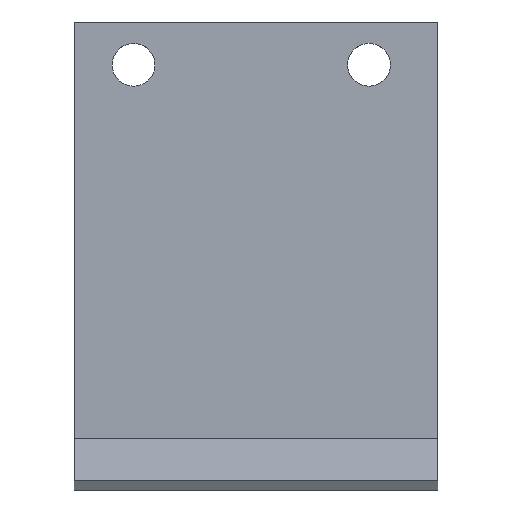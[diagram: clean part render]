
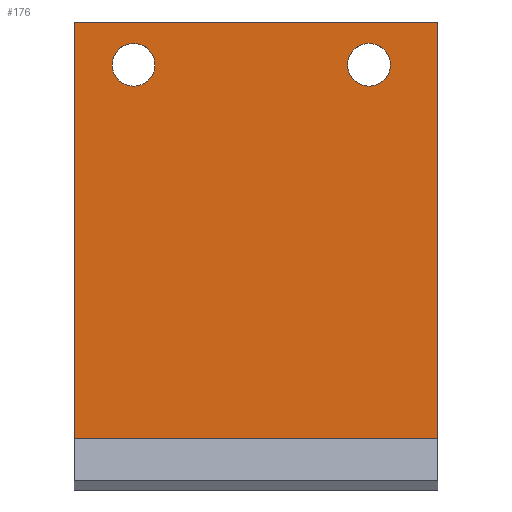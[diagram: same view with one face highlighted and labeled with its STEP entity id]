
A CAD part, top view. The second image highlights one B-rep face of the part: STEP entity #176.
In plain terms, the highlighted planar face has unit normal (0, 0, 1).
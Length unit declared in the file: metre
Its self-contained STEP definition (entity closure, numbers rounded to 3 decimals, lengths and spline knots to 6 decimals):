
#14=LINE('',#267,#32);
#15=LINE('',#270,#33);
#16=LINE('',#272,#34);
#17=LINE('',#274,#35);
#32=VECTOR('',#221,1.);
#33=VECTOR('',#222,1.);
#34=VECTOR('',#223,1.);
#35=VECTOR('',#224,1.);
#50=ORIENTED_EDGE('',*,*,#94,.T.);
#51=ORIENTED_EDGE('',*,*,#95,.T.);
#52=ORIENTED_EDGE('',*,*,#96,.F.);
#53=ORIENTED_EDGE('',*,*,#97,.T.);
#54=ORIENTED_EDGE('',*,*,#98,.T.);
#55=ORIENTED_EDGE('',*,*,#99,.T.);
#94=EDGE_CURVE('',#116,#116,#132,.F.);
#95=EDGE_CURVE('',#117,#117,#133,.F.);
#96=EDGE_CURVE('',#118,#119,#14,.T.);
#97=EDGE_CURVE('',#118,#120,#15,.T.);
#98=EDGE_CURVE('',#120,#121,#16,.T.);
#99=EDGE_CURVE('',#121,#119,#17,.T.);
#116=VERTEX_POINT('',#264);
#117=VERTEX_POINT('',#266);
#118=VERTEX_POINT('',#268);
#119=VERTEX_POINT('',#269);
#120=VERTEX_POINT('',#271);
#121=VERTEX_POINT('',#273);
#132=CIRCLE('',#200,0.002);
#133=CIRCLE('',#201,0.002);
#136=EDGE_LOOP('',(#50));
#137=EDGE_LOOP('',(#51));
#138=EDGE_LOOP('',(#52,#53,#54,#55));
#152=FACE_BOUND('',#136,.T.);
#153=FACE_BOUND('',#137,.T.);
#154=FACE_BOUND('',#138,.T.);
#168=PLANE('',#199);
#176=ADVANCED_FACE('',(#152,#153,#154),#168,.T.);
#199=AXIS2_PLACEMENT_3D('',#262,#215,#216);
#200=AXIS2_PLACEMENT_3D('',#263,#217,#218);
#201=AXIS2_PLACEMENT_3D('',#265,#219,#220);
#215=DIRECTION('',(0.,0.,1.));
#216=DIRECTION('',(1.,0.,0.));
#217=DIRECTION('',(0.,0.,1.));
#218=DIRECTION('',(1.,0.,0.));
#219=DIRECTION('',(0.,0.,1.));
#220=DIRECTION('',(1.,0.,0.));
#221=DIRECTION('',(0.,1.,0.));
#222=DIRECTION('',(1.,0.,0.));
#223=DIRECTION('',(0.,1.,0.));
#224=DIRECTION('',(-1.,0.,0.));
#262=CARTESIAN_POINT('',(-0.017,0.01975,0.001));
#263=CARTESIAN_POINT('',(-0.028439,0.0355,0.001));
#264=CARTESIAN_POINT('',(-0.026439,0.0355,0.001));
#265=CARTESIAN_POINT('',(-0.006439,0.0355,0.001));
#266=CARTESIAN_POINT('',(-0.004439,0.0355,0.001));
#267=CARTESIAN_POINT('',(-0.034,0.01975,0.001));
#268=CARTESIAN_POINT('',(-0.034,0.000546,0.001));
#269=CARTESIAN_POINT('',(-0.034,0.0395,0.001));
#270=CARTESIAN_POINT('',(-0.034,0.000546,0.001));
#271=CARTESIAN_POINT('',(0.,0.000546,0.001));
#272=CARTESIAN_POINT('',(0.,0.01975,0.001));
#273=CARTESIAN_POINT('',(0.,0.0395,0.001));
#274=CARTESIAN_POINT('',(-0.017,0.0395,0.001));
